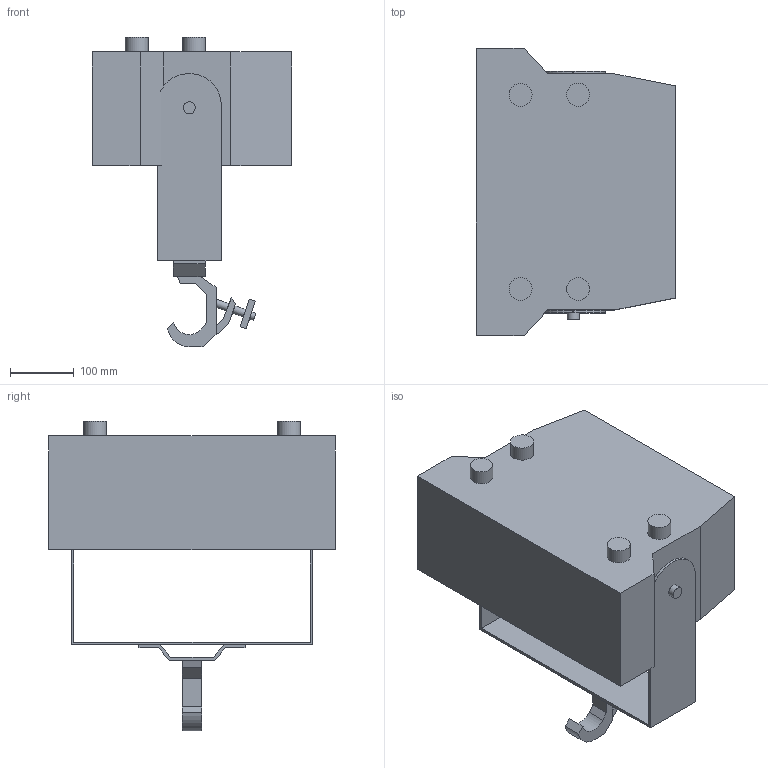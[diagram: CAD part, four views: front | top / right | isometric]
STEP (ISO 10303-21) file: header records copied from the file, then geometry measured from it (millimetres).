
FILE_DESCRIPTION(/* description */ ('Unknown'),/* implementation_level */ '2;1');
FILE_NAME(/* name */ '3D_Strobe',/* time_stamp */ '2018-07-17T08:09:27+02:00',/* author */ ('Unknown'),/* organization */ ('Unknown'),/* preprocessor_version */ 'ST-DEVELOPER v16.7',/* originating_system */ 'DEX',/* authorisation */ $);
FILE_SCHEMA (('AUTOMOTIVE_DESIGN {1 0 10303 214 3 1 1}'));
Length unit declared in the file: millimetre
Products named in the file (6): 3D_Strobe; Strobe; Joke; Omega_SlimClamp_90; Omega+SlimClamp; Clamp Doughty Slimline QT
Assembly tree (5 placements, depth 3):
  3D_Strobe
    Strobe
    Joke
    Omega_SlimClamp_90
      Omega+SlimClamp
      Clamp Doughty Slimline QT
Bounding box: 312.24 x 449.08 x 484.68 mm (x, y, z)
Volume: 21717566.8 mm3; surface area: 767828.7 mm2
Topology: 4 solids, 4 shells, 94 faces, 241 edges, 164 vertices
Faces by surface type: plane 73, cylinder 21
Full cylindrical faces by diameter (mm): 11 x2, 11.456 x1, 12 x4, 13 x1, 16.933 x2, 19 x1, 36 x4
Entity records: 2843 total; most frequent: CARTESIAN_POINT 466, DIRECTION 456, ORIENTED_EDGE 428, EDGE_CURVE 214, LINE 172, VECTOR 172, VERTEX_POINT 152, AXIS2_PLACEMENT_3D 142
